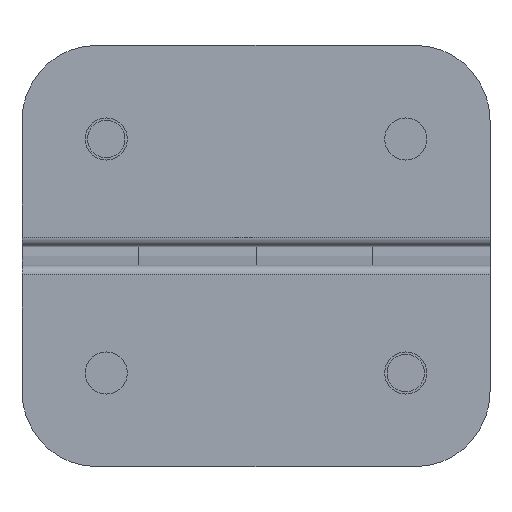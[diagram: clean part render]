
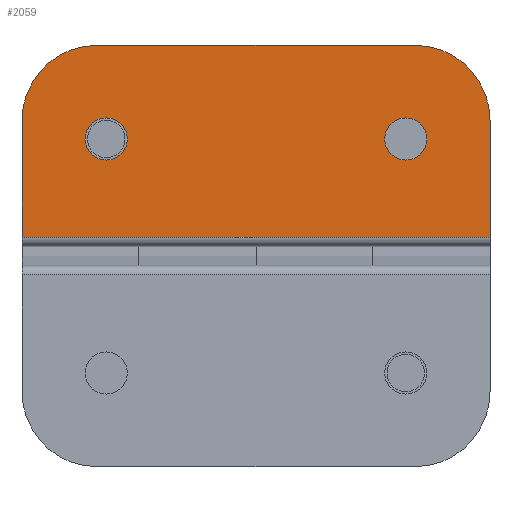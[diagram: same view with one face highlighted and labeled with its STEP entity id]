
A CAD part, front view. The second image highlights one B-rep face of the part: STEP entity #2059.
In plain terms, the highlighted planar face has unit normal (0, -1, 0).
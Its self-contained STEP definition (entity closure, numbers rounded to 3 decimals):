
#14 = ORIENTED_EDGE ( 'NONE', *, *, #2554, .T. ) ;
#97 = VERTEX_POINT ( 'NONE', #2031 ) ;
#106 = PLANE ( 'NONE',  #2463 ) ;
#128 = VERTEX_POINT ( 'NONE', #1440 ) ;
#185 = DIRECTION ( 'NONE',  ( 1., 0., 0. ) ) ;
#189 = EDGE_CURVE ( 'NONE', #776, #2440, #2081, .T. ) ;
#211 = AXIS2_PLACEMENT_3D ( 'NONE', #1640, #2060, #2295 ) ;
#248 = FACE_BOUND ( 'NONE', #606, .T. ) ;
#250 = DIRECTION ( 'NONE',  ( 1., 0., 0. ) ) ;
#260 = DIRECTION ( 'NONE',  ( 0., 1., 0. ) ) ;
#263 = AXIS2_PLACEMENT_3D ( 'NONE', #2429, #260, #1652 ) ;
#316 = DIRECTION ( 'NONE',  ( 0., 0., -1. ) ) ;
#352 = DIRECTION ( 'NONE',  ( 0., -1., 0. ) ) ;
#375 = ORIENTED_EDGE ( 'NONE', *, *, #189, .F. ) ;
#397 = ORIENTED_EDGE ( 'NONE', *, *, #1263, .F. ) ;
#429 = EDGE_CURVE ( 'NONE', #2543, #2162, #1578, .T. ) ;
#457 = VERTEX_POINT ( 'NONE', #1060 ) ;
#476 = VECTOR ( 'NONE', #185, 1000. ) ;
#482 = DIRECTION ( 'NONE',  ( 0., 1., 0. ) ) ;
#529 = LINE ( 'NONE', #1737, #1068 ) ;
#574 = CARTESIAN_POINT ( 'NONE',  ( 20.5, 0., 25. ) ) ;
#606 = EDGE_LOOP ( 'NONE', ( #1905, #2266 ) ) ;
#625 = VECTOR ( 'NONE', #859, 1000. ) ;
#639 = AXIS2_PLACEMENT_3D ( 'NONE', #1891, #1924, #720 ) ;
#643 = DIRECTION ( 'NONE',  ( 0., 0., 1. ) ) ;
#660 = LINE ( 'NONE', #1821, #1439 ) ;
#682 = FACE_BOUND ( 'NONE', #1336, .T. ) ;
#720 = DIRECTION ( 'NONE',  ( 0., 0., -1. ) ) ;
#735 = AXIS2_PLACEMENT_3D ( 'NONE', #2268, #482, #1673 ) ;
#776 = VERTEX_POINT ( 'NONE', #574 ) ;
#784 = ORIENTED_EDGE ( 'NONE', *, *, #1800, .F. ) ;
#803 = LINE ( 'NONE', #1186, #476 ) ;
#820 = CIRCLE ( 'NONE', #735, 8. ) ;
#859 = DIRECTION ( 'NONE',  ( 0., 0., -1. ) ) ;
#861 = CARTESIAN_POINT ( 'NONE',  ( 0., 0., 25. ) ) ;
#928 = CARTESIAN_POINT ( 'NONE',  ( 20.5, 0., -25. ) ) ;
#1003 = VERTEX_POINT ( 'NONE', #1097 ) ;
#1046 = EDGE_CURVE ( 'NONE', #128, #457, #529, .T. ) ;
#1060 = CARTESIAN_POINT ( 'NONE',  ( 0., 0., -17. ) ) ;
#1068 = VECTOR ( 'NONE', #316, 1000. ) ;
#1097 = CARTESIAN_POINT ( 'NONE',  ( 8., 0., 25. ) ) ;
#1117 = CARTESIAN_POINT ( 'NONE',  ( 10., 0., -16. ) ) ;
#1129 = ORIENTED_EDGE ( 'NONE', *, *, #1046, .T. ) ;
#1136 = VERTEX_POINT ( 'NONE', #1383 ) ;
#1171 = CARTESIAN_POINT ( 'NONE',  ( 10., 0., -13.75 ) ) ;
#1186 = CARTESIAN_POINT ( 'NONE',  ( 0., 0., -25. ) ) ;
#1263 = EDGE_CURVE ( 'NONE', #1003, #776, #660, .T. ) ;
#1272 = CIRCLE ( 'NONE', #1723, 2.25 ) ;
#1274 = ORIENTED_EDGE ( 'NONE', *, *, #2498, .F. ) ;
#1336 = EDGE_LOOP ( 'NONE', ( #2279, #1274 ) ) ;
#1376 = EDGE_CURVE ( 'NONE', #1136, #457, #820, .T. ) ;
#1383 = CARTESIAN_POINT ( 'NONE',  ( 8., 0., -25. ) ) ;
#1439 = VECTOR ( 'NONE', #250, 1000. ) ;
#1440 = CARTESIAN_POINT ( 'NONE',  ( 0., 0., 17. ) ) ;
#1515 = ORIENTED_EDGE ( 'NONE', *, *, #1376, .F. ) ;
#1578 = CIRCLE ( 'NONE', #211, 2.25 ) ;
#1621 = CARTESIAN_POINT ( 'NONE',  ( 10., 0., 18.25 ) ) ;
#1640 = CARTESIAN_POINT ( 'NONE',  ( 10., 0., 16. ) ) ;
#1652 = DIRECTION ( 'NONE',  ( 0., 0., 1. ) ) ;
#1658 = DIRECTION ( 'NONE',  ( 0., 1., 0. ) ) ;
#1666 = CARTESIAN_POINT ( 'NONE',  ( 20.5, 0., 25. ) ) ;
#1673 = DIRECTION ( 'NONE',  ( 0., 0., 1. ) ) ;
#1723 = AXIS2_PLACEMENT_3D ( 'NONE', #1117, #352, #1925 ) ;
#1737 = CARTESIAN_POINT ( 'NONE',  ( 0., 0., 25. ) ) ;
#1800 = EDGE_CURVE ( 'NONE', #128, #1003, #1839, .T. ) ;
#1819 = VERTEX_POINT ( 'NONE', #1171 ) ;
#1821 = CARTESIAN_POINT ( 'NONE',  ( 0., 0., 25. ) ) ;
#1838 = CARTESIAN_POINT ( 'NONE',  ( 10., 0., 16. ) ) ;
#1839 = CIRCLE ( 'NONE', #263, 8. ) ;
#1880 = DIRECTION ( 'NONE',  ( 0., 1., 0. ) ) ;
#1890 = CIRCLE ( 'NONE', #639, 2.25 ) ;
#1891 = CARTESIAN_POINT ( 'NONE',  ( 10., 0., -16. ) ) ;
#1905 = ORIENTED_EDGE ( 'NONE', *, *, #429, .T. ) ;
#1924 = DIRECTION ( 'NONE',  ( 0., -1., 0. ) ) ;
#1925 = DIRECTION ( 'NONE',  ( 0., 0., -1. ) ) ;
#2029 = EDGE_LOOP ( 'NONE', ( #14, #375, #397, #784, #1129, #1515 ) ) ;
#2031 = CARTESIAN_POINT ( 'NONE',  ( 10., 0., -18.25 ) ) ;
#2045 = EDGE_CURVE ( 'NONE', #2162, #2543, #2388, .T. ) ;
#2059 = ADVANCED_FACE ( 'PLANAR_3', ( #2083, #248, #682 ), #106, .F. ) ;
#2060 = DIRECTION ( 'NONE',  ( 0., 1., 0. ) ) ;
#2081 = LINE ( 'NONE', #1666, #625 ) ;
#2083 = FACE_OUTER_BOUND ( 'NONE', #2029, .T. ) ;
#2096 = CARTESIAN_POINT ( 'NONE',  ( 10., 0., 13.75 ) ) ;
#2162 = VERTEX_POINT ( 'NONE', #2096 ) ;
#2263 = DIRECTION ( 'NONE',  ( 0., 0., 1. ) ) ;
#2266 = ORIENTED_EDGE ( 'NONE', *, *, #2045, .T. ) ;
#2268 = CARTESIAN_POINT ( 'NONE',  ( 8., 0., -17. ) ) ;
#2279 = ORIENTED_EDGE ( 'NONE', *, *, #2353, .F. ) ;
#2295 = DIRECTION ( 'NONE',  ( 0., 0., 1. ) ) ;
#2353 = EDGE_CURVE ( 'NONE', #97, #1819, #1890, .T. ) ;
#2388 = CIRCLE ( 'NONE', #2511, 2.25 ) ;
#2429 = CARTESIAN_POINT ( 'NONE',  ( 8., 0., 17. ) ) ;
#2440 = VERTEX_POINT ( 'NONE', #928 ) ;
#2463 = AXIS2_PLACEMENT_3D ( 'NONE', #861, #1658, #2263 ) ;
#2498 = EDGE_CURVE ( 'NONE', #1819, #97, #1272, .T. ) ;
#2511 = AXIS2_PLACEMENT_3D ( 'NONE', #1838, #1880, #643 ) ;
#2543 = VERTEX_POINT ( 'NONE', #1621 ) ;
#2554 = EDGE_CURVE ( 'NONE', #1136, #2440, #803, .T. ) ;
